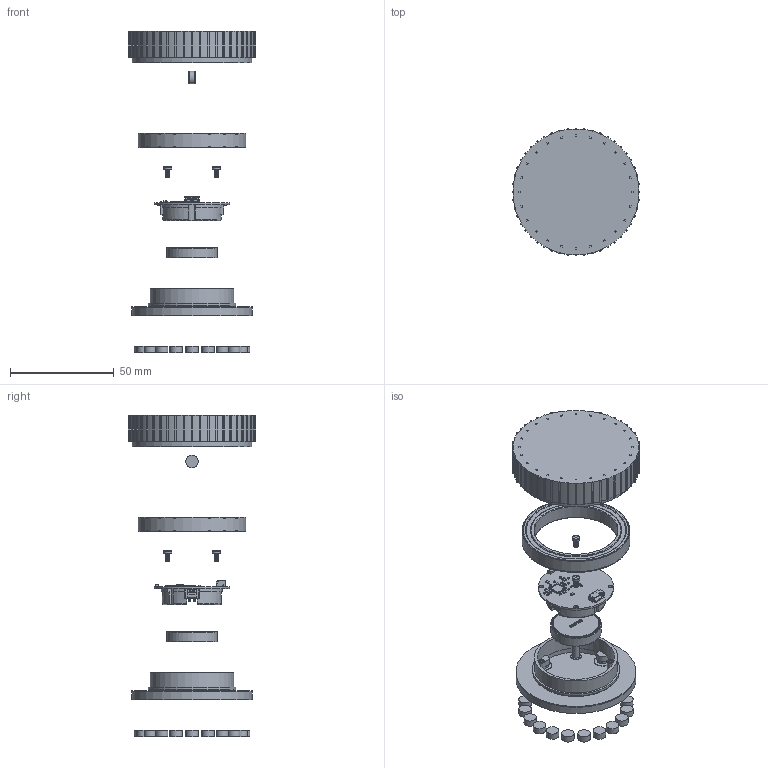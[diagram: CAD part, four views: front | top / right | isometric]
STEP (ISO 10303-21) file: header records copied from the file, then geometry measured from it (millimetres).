
FILE_DESCRIPTION(('Open CASCADE Model'),'2;1');
FILE_NAME('Open CASCADE Shape Model','2026-11-13T05:00:23',('Author'),( 'Open CASCADE'),'Open CASCADE STEP processor 7.9','Open CASCADE 7.9' ,'Unknown');
FILE_SCHEMA(('AUTOMOTIVE_DESIGN { 1 0 10303 214 1 1 1 1 }'));
Length unit declared in the file: millimetre
Products named in the file (55): V3_Exploded; PCB; Cell; PCB_Fasteners; Electronic_U1; Electronic_BT1; Electronic_C4; Electronic_C9; Electronic_C15; Electronic_C5; Electronic_C8; Electronic_C10; Electronic_C16; Electronic_C18; Electronic_J_DEBUG; Electronic_R4; Electronic_U2; Electronic_C6; Electronic_R1; Electronic_R2; Electronic_R3; Electronic_X1; Electronic_C1; Electronic_C2; Electronic_X2; Electronic_C11; Electronic_C12; Electronic_L1; Electronic_L2; Electronic_C3; Electronic_ANT1; Bearing_6808; Magnet; Cap_circular; Base_V3_Discs; Attachment_Disc_01; Attachment_Disc_02; Attachment_Disc_03; Attachment_Disc_04; Attachment_Disc_05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
Assembly tree (54 placements, depth 2):
  V3_Exploded
    PCB
    Cell
    PCB_Fasteners
    Electronic_U1
    Electronic_BT1
    Electronic_C4
    Electronic_C9
    Electronic_C15
    Electronic_C5
    Electronic_C8
    Electronic_C10
    Electronic_C16
    Electronic_C18
    Electronic_J_DEBUG
    Electronic_R4
    Electronic_U2
    Electronic_C6
    Electronic_R1
    Electronic_R2
    Electronic_R3
    Electronic_X1
    Electronic_C1
    Electronic_C2
    Electronic_X2
    Electronic_C11
    Electronic_C12
    Electronic_L1
    Electronic_L2
    Electronic_C3
    Electronic_ANT1
    Bearing_6808
    Magnet
    Cap_circular
    Base_V3_Discs
    Attachment_Disc_01
    Attachment_Disc_02
    Attachment_Disc_03
    Attachment_Disc_04
    Attachment_Disc_05
    Attachment_Disc_06
    Attachment_Disc_07
    Attachment_Disc_08
    Attachment_Disc_09
    Attachment_Disc_10
    Attachment_Disc_11
    Attachment_Disc_12
    Attachment_Disc_13
    Attachment_Disc_14
    Attachment_Disc_15
    Attachment_Disc_16
    Attachment_Disc_17
    Attachment_Disc_18
    Attachment_Disc_19
    Attachment_Disc_20
Bounding box: 61.6 x 61.6 x 154.7 mm (x, y, z)
Volume: 33159.3 mm3; surface area: 43495.9 mm2
Topology: 254 solids, 254 shells, 11460 faces, 30205 edges, 19749 vertices
Faces by surface type: plane 6676, bspline 2964, cylinder 1453, sphere 211, extrusion 76, torus 48, cone 32
Full cylindrical faces by diameter (mm): 0.36 x21, 1.6 x4, 1.96 x18, 2.2 x4, 3.2 x4, 3.8 x2, 5 x7, 5.4 x3, 6 x21, 6.4 x20, 22.2 x2, 23.2 x1, 23.3 x1, 24.5 x1, 36.5 x1, 37.3 x1, 40 x1, 40.05 x1, 41.4 x1, 42 x1, 43.9 x2, 43.96 x2, 44.2 x2, 48.04 x2, 48.1 x2, 50 x1, 50.7 x4, 51.4 x2, 51.46 x2, 51.95 x1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
Entity records: 836793 total; most frequent: CARTESIAN_POINT 276467, DIRECTION 86212, VECTOR 62477, LINE 62401, ORIENTED_EDGE 59988, PCURVE 59988, DEFINITIONAL_REPRESENTATION 59988, EDGE_CURVE 29994
